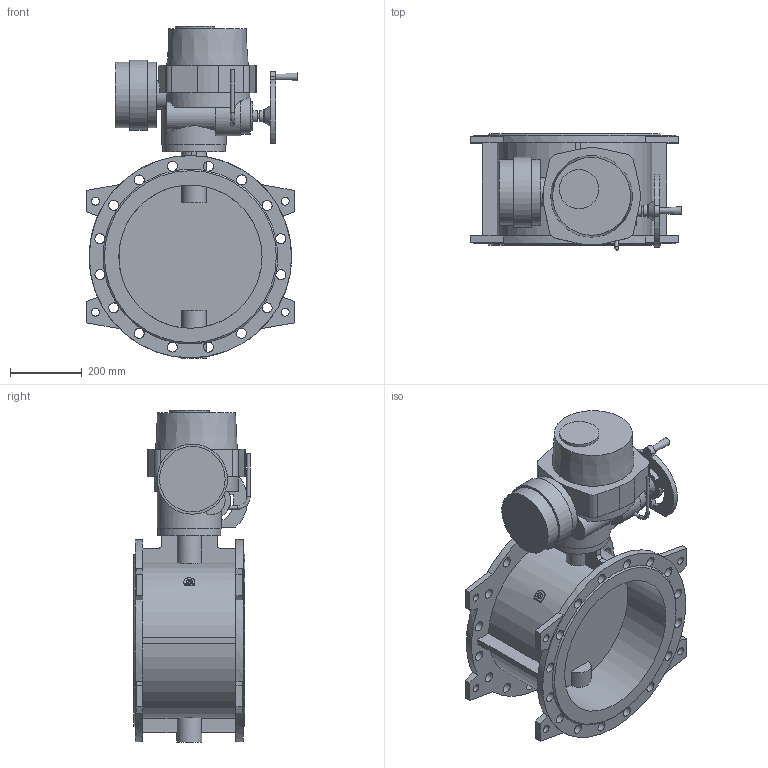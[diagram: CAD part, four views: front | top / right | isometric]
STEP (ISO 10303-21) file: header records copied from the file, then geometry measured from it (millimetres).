
FILE_DESCRIPTION(('STEP AP203'), '1');
FILE_NAME('Çàòâîð 023F.Z DN400 PN10 + ýëåêòðîïðèâîä QT.A120', '', ('UNSPECIFIED'), ('UNSPECIFIED'), 'ASCON STEP Converter 1.6', 'ASCON Math Kernel', '');
FILE_SCHEMA(('CONFIG_CONTROL_DESIGN'));
Length unit declared in the file: millimetre
Bounding box: 589 x 325 x 927 mm (x, y, z)
Volume: 36031448.5 mm3; surface area: 2284431.7 mm2
Topology: 1 solids, 1 shells, 240 faces, 713 edges, 471 vertices
Faces by surface type: plane 129, cylinder 105, cone 5, torus 1
Full cylindrical faces by diameter (mm): 10 x6, 16 x1, 18 x4, 22 x8, 28 x32, 32 x2, 35 x1, 70 x1, 80 x2, 100 x1, 110 x1, 175 x1, 180 x1, 183 x2, 196 x1, 400 x2, 565 x2
Entity records: 12697 total; most frequent: CARTESIAN_POINT 4245, DIRECTION 1377, ORIENTED_EDGE 1278, EDGE_CURVE 639, AXIS2_PLACEMENT_3D 557, VERTEX_POINT 471, EDGE_LOOP 396, CIRCLE 316
